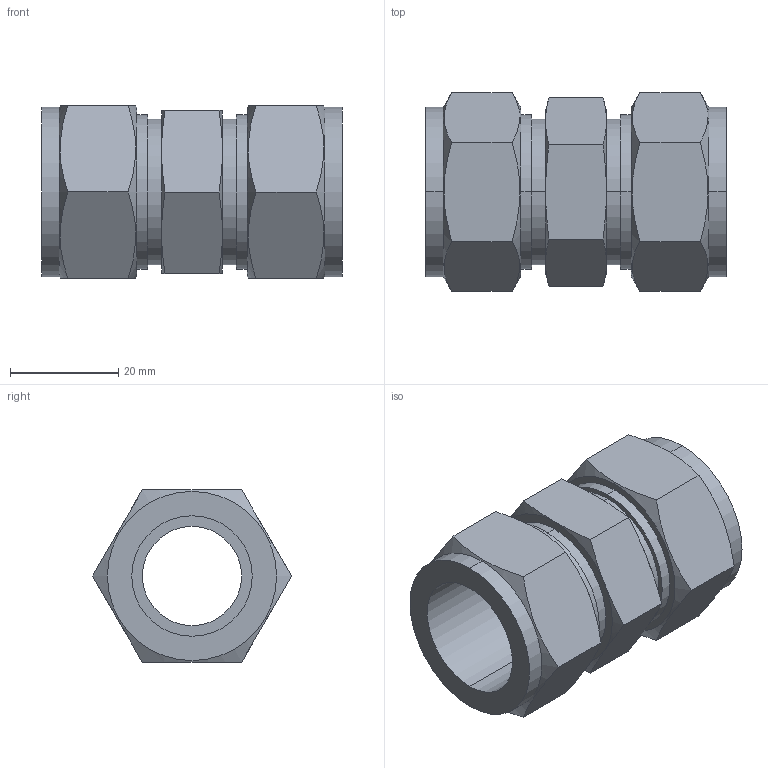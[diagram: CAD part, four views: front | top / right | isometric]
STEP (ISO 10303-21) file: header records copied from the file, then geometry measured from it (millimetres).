
FILE_DESCRIPTION (( 'STEP AP203' ), '1' );
FILE_NAME ('DUA14 SS.STEP', '2009-09-08T10:22:05', ( ' ' ), ( '' ), 'SwSTEP 2.0', 'SolidWorks 2008', '' );
FILE_SCHEMA (( 'CONFIG_CONTROL_DESIGN' ));
Length unit declared in the file: millimetre
Products named in the file (1): DUA14 SS
Bounding box: 55.4 x 36.66 x 31.75 mm (x, y, z)
Volume: 22863.5 mm3; surface area: 11592.1 mm2
Topology: 1 solids, 1 shells, 66 faces, 152 edges, 96 vertices
Faces by surface type: plane 28, cone 20, cylinder 18
Entity records: 2237 total; most frequent: CARTESIAN_POINT 723, ORIENTED_EDGE 304, DIRECTION 282, EDGE_CURVE 152, AXIS2_PLACEMENT_3D 119, VERTEX_POINT 96, EDGE_LOOP 76, ADVANCED_FACE 66
